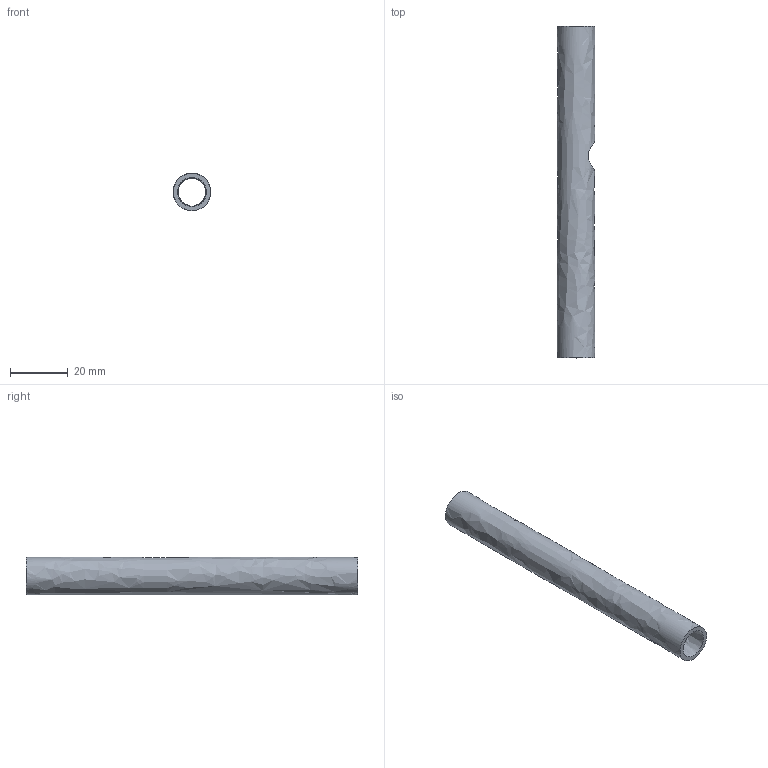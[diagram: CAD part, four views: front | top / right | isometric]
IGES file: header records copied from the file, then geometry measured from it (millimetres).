
Start section: Data from Parasolid IGES Translator 21.0.47, Copyright(c) 2006 Siemens P LM Software. All Rights Reserved.
Global section: file name: 5a744ccca5735f1002762f5a.iges; native system: By Siemens PLM Incorporated; preprocessor: XPlus GENERIC/IGES 21.0.47; author: Noname; organization: Noname; date: 20180202.113437; units: metre
Bounding box: 13 x 115 x 13 mm (x, y, z)
Surface area: 8318.6 mm2 (no closed solid volume)
Topology: 0 solids, 0 shells, 7 faces, 30 edges, 27 vertices
Faces by surface type: extrusion 4, revolution 3
